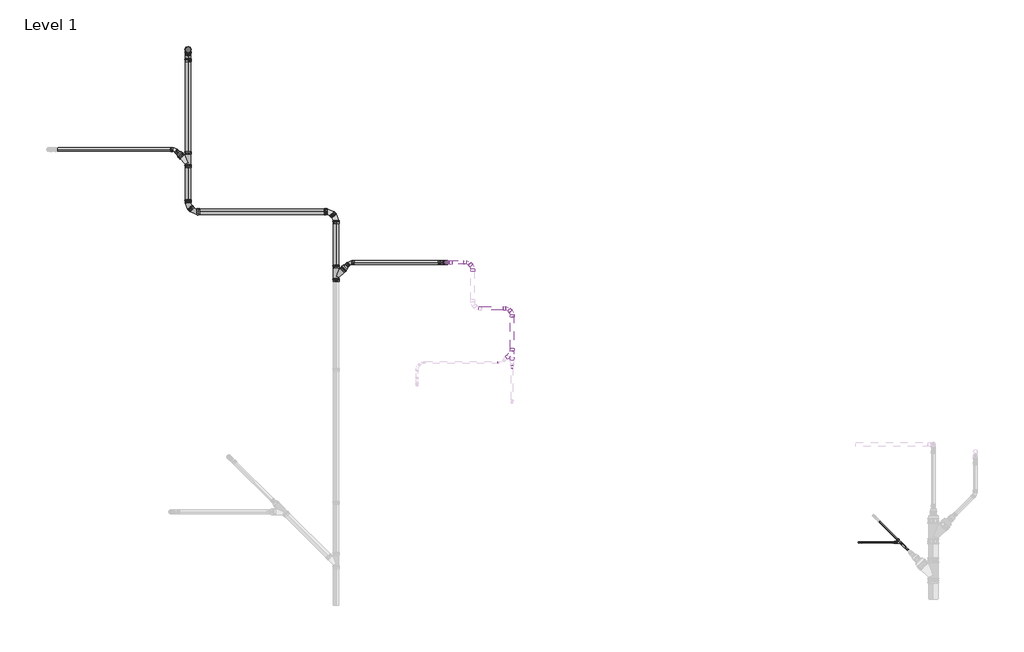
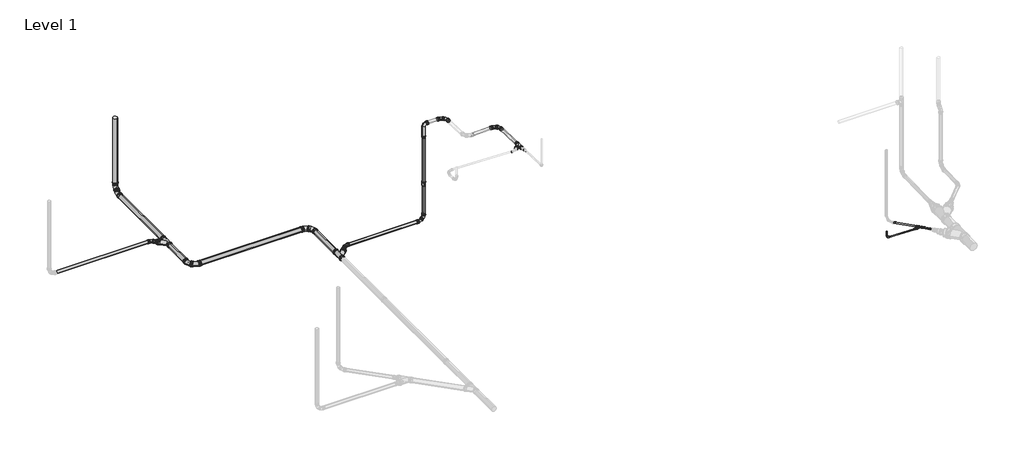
# One storey, part 2 of 7: 76 pipe fittings, 16 pipe segments.
"""IFC4 building model written with IfcOpenShell, lengths in millimetres."""

from ifc_helpers import new_model, si_unit, point, frame, frame_2d, origin, place, context, project, spatial, circle_curve, trimmed, segment, composite_curve, outline, extrude, transform, mapped, element, save
from components import std_7d5d7c72, std_65e16e6f, std_512bb775, std_630098ac, std_23606c27, std_dee5be90, std_f0847e49, std_f9de8ce1, std_0ddcd905, std_8a2dcd32, std_7f522812, std_nested_5daa23bf, std_nested_51db5023, std_nested_5b5722a1, std_nested_4232c6ad, std_nested_3508894c, std_nested_f4b71964, std_nested_afca93a4, std_nested_0d9e00e9, std_nested_fe48a173, std_nested_0864587b, std_nested_abb7c94b, std_nested_8823e034, std_nested_0554dc6d, std_nested_e6348f04, std_nested_87475930, std_nested_d12045ae, std_nested_01edd257, std_nested_ec2a7507, std_nested_473bf3f7, std_nested_83654513, std_nested_352c3d66, std_nested_72f87268

model = new_model("IFC4")

# Units and contexts
model_context = context("Model", 3, world=origin())
ifc_project = project(units=[si_unit("LENGTHUNIT", "METRE", prefix="MILLI")], contexts=[model_context])

# Site, building, storey
site = spatial("IfcSite", under=ifc_project)
building = spatial("IfcBuilding", under=site)
storey = spatial("IfcBuildingStorey", under=building, Name="Level 1", Elevation=0.0)

# Pipe fittings
placement = place(None, origin())
std_shape = std_7d5d7c72(model_context)
element("IfcPipeFitting", 1, ObjectType="PIF_ST_UN_GM-X optimiserbend 1a push socket_ACO : std", at=placement, inside=storey, context=model_context, shape_type="MappedRepresentation", body=[
    mapped(std_shape, transform((-21120.1090497, 8557.3978998, 3599.9177168), x_axis=(-1.0, 0.0, 0.0), y_axis=(0.0, 0.0, -1.0), z_axis=(0.0, -1.0, 0.0))),
])
std_2_shape = std_65e16e6f(model_context)
element("IfcPipeFitting", 2, ObjectType="PIF_ST_UN_GM-X multibranch_ACO : std", at=placement, inside=storey, context=model_context, shape_type="MappedRepresentation", body=[
    mapped(std_2_shape, transform((-8252.8917336, 607.449965, 82.5747072), x_axis=(-0.7070272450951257, 0.7070272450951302, 0.014998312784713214), y_axis=(-0.7070272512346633, -0.707159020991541, 0.006211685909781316), z_axis=(0.01499802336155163, -0.006212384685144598, 0.9998682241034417))),
])
std_3_shape = std_512bb775(model_context)
element("IfcPipeFitting", 3, ObjectType="PIF_ST_UN_GM-X multibranch_ACO : std", at=placement, inside=storey, context=model_context, shape_type="MappedRepresentation", body=[
    mapped(std_3_shape, transform((-28468.2867366, 11388.8917044, 15.5), x_axis=(0.0, 1.0, 0.0), y_axis=(-1.0, 0.0, 0.0), z_axis=(0.0, 0.0, 1.0))),
])
element("IfcPipeFitting", 4, ObjectType="PIF_ST_UN_GM-X multibranch_ACO : std", at=placement, inside=storey, context=model_context, shape_type="MappedRepresentation", body=[
    mapped(std_3_shape, transform((-24268.2867366, 8162.8323159, 15.5), x_axis=(0.0, 1.0, 0.0), y_axis=(1.0, 0.0, 0.0), z_axis=(0.0, 0.0, -1.0))),
])
std_4_shape = std_630098ac(model_context)
element("IfcPipeFitting", 5, ObjectType="PIF_ST_UN_GM-X multibranch_ACO : std", at=placement, inside=storey, context=model_context, shape_type="MappedRepresentation", body=[
    mapped(std_4_shape, transform((-19271.0829887, 6007.4583847, 3728.4040372), x_axis=(0.0, -0.9993880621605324, 0.03497858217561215), y_axis=(-0.9993888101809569, 0.0012227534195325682, 0.03493581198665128), z_axis=(-0.034957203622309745, -0.03495720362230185, -0.9987772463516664))),
])
std_5_shape = std_23606c27(model_context)
element("IfcPipeFitting", 6, ObjectType="PIF_ST_UN_GM-X double bend_ACO : std", at=placement, inside=storey, context=model_context, shape_type="MappedRepresentation", body=[
    mapped(std_5_shape, transform((-28468.2867366, 10000.6257944, 15.5), x_axis=(0.0, -1.0, 0.0), y_axis=(1.0, 0.0, 0.0), z_axis=(0.0, 0.0, 1.0))),
])
element("IfcPipeFitting", 7, ObjectType="PIF_ST_UN_GM-X double bend_ACO : std", at=placement, inside=storey, context=model_context, shape_type="MappedRepresentation", body=[
    mapped(std_5_shape, transform((-28468.2867366, 14600.6257944, 15.5), x_axis=(0.0, 0.0, -1.0), y_axis=(0.0, -1.0, 0.0), z_axis=(-1.0, 0.0, 0.0))),
])
std_6_shape = std_dee5be90(model_context)
element("IfcPipeFitting", 8, ObjectType="PIF_ST_UN_GM-X double bend_ACO : std", at=placement, inside=storey, context=model_context, shape_type="MappedRepresentation", body=[
    mapped(std_6_shape, transform((-24268.2867366, 10000.6257944, 15.5), x_axis=(0.0, 1.0, 0.0), y_axis=(-1.0, 0.0, 0.0), z_axis=(0.0, 0.0, 1.0))),
])
std_7_shape = std_f0847e49(model_context)
element("IfcPipeFitting", 9, ObjectType="PIF_ST_UN_GM-X double bend_ACO : std", at=placement, inside=storey, context=model_context, shape_type="MappedRepresentation", body=[
    mapped(std_7_shape, transform((-21120.1090497, 8557.3978998, 44.0), x_axis=(1.0, 0.0, 0.0), y_axis=(0.0, 0.0, 1.0), z_axis=(0.0, -1.0, 0.0))),
])
std_8_shape = std_f9de8ce1(model_context)
element("IfcPipeFitting", 10, ObjectType="PIF_ST_UN_GM-X double bend_ACO : std", at=placement, inside=storey, context=model_context, shape_type="MappedRepresentation", body=[
    mapped(std_8_shape, transform((-19271.0829887, 7253.2374554, 3684.8017697), x_axis=(0.0, 0.9993880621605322, -0.03497858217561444), y_axis=(-0.999388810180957, -0.0012227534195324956, -0.034935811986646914), z_axis=(-0.03495720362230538, 0.034957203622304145, 0.9987772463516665))),
])
std_9_shape = std_0ddcd905(model_context)
element("IfcPipeFitting", 11, ObjectType="PIF_ST_UN_GM-X double bend_ACO : std", at=placement, inside=storey, context=model_context, shape_type="MappedRepresentation", body=[
    mapped(std_9_shape, transform((-20392.1811992, 8557.3978998, 3599.9177168), x_axis=(0.0, 0.9993880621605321, -0.034978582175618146), y_axis=(-1.0, 0.0, 0.0), z_axis=(0.0, 0.034978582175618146, 0.9993880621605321))),
])
std_10_shape = std_8a2dcd32(model_context)
element("IfcPipeFitting", 12, ObjectType="PIF_ST_UN_GM-X pipe end_ACO : std", at=placement, inside=storey, context=model_context, shape_type="MappedRepresentation", body=[
    mapped(std_10_shape, transform((-21120.1090497, 8557.3978998, 1317.8889473), x_axis=(0.0, 0.0, -1.0), y_axis=(0.0, -1.0, 0.0), z_axis=(-1.0, 0.0, 0.0))),
])
std_11_shape = std_7f522812(model_context)
element("IfcPipeFitting", 13, ObjectType="PIF_ST_UN_GM-X pipe bend_ACO : std", at=placement, inside=storey, context=model_context, shape_type="MappedRepresentation", body=[
    mapped(std_11_shape, transform((-9433.0501981, 607.449965, 100.2449294), x_axis=(-0.9998880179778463, 0.0, 0.014965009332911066), y_axis=(0.014965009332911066, 0.0, 0.9998880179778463), z_axis=(0.0, 1.0, 0.0))),
])
std_nested_shape = std_nested_5daa23bf(model_context)
element("IfcPipeFitting", 14, ObjectType="ZZZ_do not use_PIF_ST_UN_GM-X seal non transitional_ACO : std (nested)", at=placement, inside=storey, context=model_context, shape_type="MappedRepresentation", body=[
    mapped(std_nested_shape, transform((-19270.0353213, 5548.7875435, 3774.4275391), x_axis=(0.0, -0.9993880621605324, 0.03497858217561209), y_axis=(0.9993888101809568, -0.001222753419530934, -0.03493581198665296), z_axis=(0.03495720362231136, 0.034957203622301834, 0.9987772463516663))),
])
std_nested_2_shape = std_nested_51db5023(model_context)
element("IfcPipeFitting", 15, ObjectType="ZZZ_do not use_PIF_ST_UN_GM-X single branch_ACO : std (nested)", at=placement, inside=storey, context=model_context, shape_type="MappedRepresentation", body=[
    mapped(std_nested_2_shape, transform((-8252.8917336, 607.449965, 82.5747072), x_axis=(-0.7070272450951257, 0.7070272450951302, 0.014998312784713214), y_axis=(-0.7070272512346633, -0.707159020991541, 0.006211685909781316), z_axis=(0.01499802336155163, -0.006212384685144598, 0.9998682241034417))),
])
std_nested_3_shape = std_nested_5b5722a1(model_context)
element("IfcPipeFitting", 16, ObjectType="ZZZ_do not use_PIF_ST_UN_GM-X single branch_ACO : std (nested)", at=placement, inside=storey, context=model_context, shape_type="MappedRepresentation", body=[
    mapped(std_nested_3_shape, transform((-28468.2867366, 11388.8917044, 15.5), x_axis=(0.0, 1.0, 0.0), y_axis=(-1.0, 0.0, 0.0), z_axis=(0.0, 0.0, 1.0))),
])
element("IfcPipeFitting", 17, ObjectType="ZZZ_do not use_PIF_ST_UN_GM-X single branch_ACO : std (nested)", at=placement, inside=storey, context=model_context, shape_type="MappedRepresentation", body=[
    mapped(std_nested_3_shape, transform((-24268.2867366, 8162.8323159, 15.5), x_axis=(0.0, 1.0, 0.0), y_axis=(1.0, 0.0, 0.0), z_axis=(0.0, 0.0, -1.0))),
])
std_nested_4_shape = std_nested_4232c6ad(model_context)
element("IfcPipeFitting", 18, ObjectType="ZZZ_do not use_PIF_ST_UN_GM-X single branch_ACO : std (nested)", at=placement, inside=storey, context=model_context, shape_type="MappedRepresentation", body=[
    mapped(std_nested_4_shape, transform((-19271.0829887, 6007.4583847, 3728.4040372), x_axis=(0.0, -0.9993880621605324, 0.03497858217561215), y_axis=(-0.9993888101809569, 0.0012227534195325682, 0.03493581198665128), z_axis=(-0.034957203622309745, -0.03495720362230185, -0.9987772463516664))),
])
std_nested_5_shape = std_nested_3508894c(model_context)
element("IfcPipeFitting", 19, ObjectType="ZZZ_do not use_PIF_ST_UN_GM-X transition element_ACO : std (nested)", at=placement, inside=storey, context=model_context, shape_type="MappedRepresentation", body=[
    mapped(std_nested_5_shape, transform((-8405.3745802, 607.449965, 84.8619499), x_axis=(-0.9998875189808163, 0.0, 0.014998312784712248), y_axis=(-9.317528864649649e-05, -0.9999807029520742, -0.006211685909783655), z_axis=(0.014998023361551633, -0.0062123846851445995, 0.9998682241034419))),
])
std_nested_6_shape = std_nested_f4b71964(model_context)
element("IfcPipeFitting", 20, ObjectType="ZZZ_do not use_PIF_ST_UN_GM-X transition element_ACO : std (nested)", at=placement, inside=storey, context=model_context, shape_type="MappedRepresentation", body=[
    mapped(std_nested_6_shape, transform((-28698.0964405, 11618.7014083, 15.5), x_axis=(-0.7071067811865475, 0.7071067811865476, 0.0), y_axis=(-0.7071067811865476, -0.7071067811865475, 0.0), z_axis=(0.0, 0.0, 1.0))),
])
std_nested_7_shape = std_nested_afca93a4(model_context)
element("IfcPipeFitting", 21, ObjectType="ZZZ_do not use_PIF_ST_UN_GM-X transition element_ACO : std (nested)", at=placement, inside=storey, context=model_context, shape_type="MappedRepresentation", body=[
    mapped(std_nested_7_shape, transform((-24029.9917513, 8401.1273012, 15.5), x_axis=(0.7071067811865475, 0.7071067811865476, 0.0), y_axis=(0.7071067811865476, -0.7071067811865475, 0.0), z_axis=(0.0, 0.0, -1.0))),
])
std_nested_8_shape = std_nested_0d9e00e9(model_context)
element("IfcPipeFitting", 22, ObjectType="ZZZ_do not use_PIF_ST_UN_GM-X pipe bend_ACO : std (nested)", at=placement, inside=storey, context=model_context, shape_type="MappedRepresentation", body=[
    mapped(std_nested_8_shape, transform((-28845.8817577, 11766.4867256, 15.5), x_axis=(-0.707106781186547, 0.707106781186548, 0.0), y_axis=(-0.707106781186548, -0.707106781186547, 0.0), z_axis=(0.0, 0.0, 1.0))),
])
element("IfcPipeFitting", 23, ObjectType="ZZZ_do not use_PIF_ST_UN_GM-X pipe bend_ACO : std (nested)", at=placement, inside=storey, context=model_context, shape_type="MappedRepresentation", body=[
    mapped(std_nested_8_shape, transform((-20518.0462062, 8557.3978998, 3599.9177168), x_axis=(-0.707106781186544, 0.7066740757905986, -0.024733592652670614), y_axis=(-0.707106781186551, -0.7066740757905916, 0.024733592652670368), z_axis=(0.0, 0.034978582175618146, 0.9993880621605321))),
])
element("IfcPipeFitting", 24, ObjectType="ZZZ_do not use_PIF_ST_UN_GM-X pipe bend_ACO : std (nested)", at=placement, inside=storey, context=model_context, shape_type="MappedRepresentation", body=[
    mapped(std_nested_8_shape, transform((-23873.7211527, 8557.3978998, 44.0), x_axis=(0.7071067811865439, 0.7071067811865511, 0.0), y_axis=(0.7071067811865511, -0.7071067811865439, 0.0), z_axis=(0.0, 0.0, -1.0))),
])
std_nested_9_shape = std_nested_fe48a173(model_context)
element("IfcPipeFitting", 25, ObjectType="ZZZ_do not use_PIF_ST_UN_GM-X pipe bend_ACO : std (nested)", at=placement, inside=storey, context=model_context, shape_type="MappedRepresentation", body=[
    mapped(std_nested_9_shape, transform((-28468.2867366, 10173.8669558, 15.5), x_axis=(0.0, -1.0, 0.0), y_axis=(1.0, 0.0, 0.0), z_axis=(0.0, 0.0, 1.0))),
])
element("IfcPipeFitting", 26, ObjectType="ZZZ_do not use_PIF_ST_UN_GM-X pipe bend_ACO : std (nested)", at=placement, inside=storey, context=model_context, shape_type="MappedRepresentation", body=[
    mapped(std_nested_9_shape, transform((-28468.2867366, 14600.6257944, 188.7411614), x_axis=(0.0, 0.0, -1.0), y_axis=(0.0, -1.0, 0.0), z_axis=(-1.0, 0.0, 0.0))),
])
std_nested_10_shape = std_nested_0864587b(model_context)
element("IfcPipeFitting", 27, ObjectType="ZZZ_do not use_PIF_ST_UN_GM-X pipe bend_ACO : std (nested)", at=placement, inside=storey, context=model_context, shape_type="MappedRepresentation", body=[
    mapped(std_nested_10_shape, transform((-28295.0455752, 10000.6257944, 15.5), x_axis=(0.7071067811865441, -0.707106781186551, 0.0), y_axis=(0.707106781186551, 0.7071067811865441, 0.0), z_axis=(0.0, 0.0, 1.0))),
])
element("IfcPipeFitting", 28, ObjectType="ZZZ_do not use_PIF_ST_UN_GM-X pipe bend_ACO : std (nested)", at=placement, inside=storey, context=model_context, shape_type="MappedRepresentation", body=[
    mapped(std_nested_10_shape, transform((-28468.2867366, 14427.384633, 15.5), x_axis=(0.0, -0.7071067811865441, -0.707106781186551), y_axis=(0.0, -0.707106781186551, 0.7071067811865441), z_axis=(-1.0, 0.0, 0.0))),
])
std_nested_11_shape = std_nested_abb7c94b(model_context)
element("IfcPipeFitting", 29, ObjectType="ZZZ_do not use_PIF_ST_UN_GM-X pipe bend_ACO : std (nested)", at=placement, inside=storey, context=model_context, shape_type="MappedRepresentation", body=[
    mapped(std_nested_11_shape, transform((-24268.2867366, 9827.384633, 15.5), x_axis=(0.0, 1.0, 0.0), y_axis=(-1.0, 0.0, 0.0), z_axis=(0.0, 0.0, 1.0))),
])
std_nested_12_shape = std_nested_8823e034(model_context)
element("IfcPipeFitting", 30, ObjectType="ZZZ_do not use_PIF_ST_UN_GM-X pipe bend_ACO : std (nested)", at=placement, inside=storey, context=model_context, shape_type="MappedRepresentation", body=[
    mapped(std_nested_12_shape, transform((-24441.527898, 10000.6257944, 15.5), x_axis=(-0.7071067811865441, 0.707106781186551, 0.0), y_axis=(-0.707106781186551, -0.7071067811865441, 0.0), z_axis=(0.0, 0.0, 1.0))),
])
std_nested_13_shape = std_nested_0554dc6d(model_context)
element("IfcPipeFitting", 31, ObjectType="ZZZ_do not use_PIF_ST_UN_GM-X pipe bend_ACO : std (nested)", at=placement, inside=storey, context=model_context, shape_type="MappedRepresentation", body=[
    mapped(std_nested_13_shape, transform((-21245.9740567, 8557.3978998, 44.0), x_axis=(1.0, 0.0, 0.0), y_axis=(0.0, 0.0, 1.0), z_axis=(0.0, -1.0, 0.0))),
])
std_nested_14_shape = std_nested_e6348f04(model_context)
element("IfcPipeFitting", 32, ObjectType="ZZZ_do not use_PIF_ST_UN_GM-X pipe bend_ACO : std (nested)", at=placement, inside=storey, context=model_context, shape_type="MappedRepresentation", body=[
    mapped(std_nested_14_shape, transform((-21120.1090497, 8557.3978998, 169.8650071), x_axis=(0.707106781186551, 0.0, 0.707106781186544), y_axis=(-0.707106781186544, 0.0, 0.707106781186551), z_axis=(0.0, -1.0, 0.0))),
])
std_nested_15_shape = std_nested_87475930(model_context)
element("IfcPipeFitting", 33, ObjectType="ZZZ_do not use_PIF_ST_UN_GM-X pipe bend_ACO : std (nested)", at=placement, inside=storey, context=model_context, shape_type="MappedRepresentation", body=[
    mapped(std_nested_15_shape, transform((-19271.0829887, 7127.5263503, 3689.2016584), x_axis=(0.0, 0.9993880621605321, -0.03497858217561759), y_axis=(-0.999388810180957, -0.0012227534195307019, -0.03493581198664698), z_axis=(-0.03495720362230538, 0.03495720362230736, 0.9987772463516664))),
])
std_nested_16_shape = std_nested_d12045ae(model_context)
element("IfcPipeFitting", 34, ObjectType="ZZZ_do not use_PIF_ST_UN_GM-X pipe bend_ACO : std (nested)", at=placement, inside=storey, context=model_context, shape_type="MappedRepresentation", body=[
    mapped(std_nested_16_shape, transform((-19396.7940938, 7253.2374554, 3680.401881), x_axis=(-0.7062421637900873, 0.7062421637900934, -0.049436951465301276), y_axis=(-0.7071067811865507, -0.7071067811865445, 0.0), z_axis=(-0.03495720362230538, 0.034957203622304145, 0.9987772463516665))),
])
std_nested_17_shape = std_nested_01edd257(model_context)
element("IfcPipeFitting", 35, ObjectType="ZZZ_do not use_PIF_ST_UN_GM-X pipe bend_ACO : std (nested)", at=placement, inside=storey, context=model_context, shape_type="MappedRepresentation", body=[
    mapped(std_nested_17_shape, transform((-20392.1811992, 8431.6099143, 3604.3202963), x_axis=(0.0, 0.999388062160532, -0.03497858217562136), y_axis=(-1.0, 0.0, 0.0), z_axis=(0.0, 0.03497858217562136, 0.999388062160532))),
])
std_nested_18_shape = std_nested_ec2a7507(model_context)
element("IfcPipeFitting", 36, ObjectType="ZZZ_do not use_PIF_ST_UN_GM-X seal non transitional_ACO : std (nested)", at=placement, inside=storey, context=model_context, shape_type="MappedRepresentation", body=[
    mapped(std_nested_18_shape, transform((-8493.8646257, 607.449965, 86.1893006), x_axis=(-0.9998875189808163, 0.0, 0.014998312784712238), y_axis=(-9.317528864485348e-05, -0.9999807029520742, -0.006211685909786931), z_axis=(0.014998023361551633, -0.006212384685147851, 0.9998682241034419))),
])
element("IfcPipeFitting", 37, ObjectType="ZZZ_do not use_PIF_ST_UN_GM-X seal non transitional_ACO : std (nested)", at=placement, inside=storey, context=model_context, shape_type="MappedRepresentation", body=[
    mapped(std_nested_18_shape, transform((-9433.0501981, 607.449965, 195.2449294), x_axis=(0.0, 0.0, 1.0), y_axis=(1.0, 0.0, 0.0), z_axis=(0.0, 1.0, 0.0))),
])
element("IfcPipeFitting", 38, ObjectType="ZZZ_do not use_PIF_ST_UN_GM-X seal non transitional_ACO : std (nested)", at=placement, inside=storey, context=model_context, shape_type="MappedRepresentation", body=[
    mapped(std_nested_18_shape, transform((-9359.0584848, 607.449965, 99.1375188), x_axis=(-0.9998880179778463, 0.0, 0.014965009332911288), y_axis=(0.014965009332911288, 0.0, 0.9998880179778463), z_axis=(0.0, 1.0, 0.0))),
])
std_nested_19_shape = std_nested_473bf3f7(model_context)
element("IfcPipeFitting", 39, ObjectType="ZZZ_do not use_PIF_ST_UN_GM-X seal non transitional_ACO : std (nested)", at=placement, inside=storey, context=model_context, shape_type="MappedRepresentation", body=[
    mapped(std_nested_19_shape, transform((-19271.0829887, 7003.6022306, 3693.5390026), x_axis=(0.0, -0.9993880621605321, 0.03497858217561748), y_axis=(0.999388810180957, 0.0012227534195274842, 0.03493581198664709), z_axis=(-0.03495720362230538, 0.03495720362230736, 0.9987772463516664))),
])
element("IfcPipeFitting", 40, ObjectType="ZZZ_do not use_PIF_ST_UN_GM-X seal non transitional_ACO : std (nested)", at=placement, inside=storey, context=model_context, shape_type="MappedRepresentation", body=[
    mapped(std_nested_19_shape, transform((-19309.2200655, 7165.6634271, 3686.532063), x_axis=(0.706242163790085, -0.7062421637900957, 0.049436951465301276), y_axis=(0.7071067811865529, 0.7071067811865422, 0.0), z_axis=(-0.03495720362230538, 0.034957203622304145, 0.9987772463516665))),
])
element("IfcPipeFitting", 41, ObjectType="ZZZ_do not use_PIF_ST_UN_GM-X seal non transitional_ACO : std (nested)", at=placement, inside=storey, context=model_context, shape_type="MappedRepresentation", body=[
    mapped(std_nested_19_shape, transform((-21369.9740567, 8557.3978998, 44.0), x_axis=(-1.0, 0.0, 0.0), y_axis=(0.0, 0.0, -1.0), z_axis=(0.0, -1.0, 0.0))),
])
element("IfcPipeFitting", 42, ObjectType="ZZZ_do not use_PIF_ST_UN_GM-X seal non transitional_ACO : std (nested)", at=placement, inside=storey, context=model_context, shape_type="MappedRepresentation", body=[
    mapped(std_nested_19_shape, transform((-21207.7902905, 8557.3978998, 82.1837662), x_axis=(-0.7071067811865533, 0.0, -0.7071067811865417), y_axis=(0.7071067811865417, 0.0, -0.7071067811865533), z_axis=(0.0, -1.0, 0.0))),
])
element("IfcPipeFitting", 43, ObjectType="ZZZ_do not use_PIF_ST_UN_GM-X seal non transitional_ACO : std (nested)", at=placement, inside=storey, context=model_context, shape_type="MappedRepresentation", body=[
    mapped(std_nested_19_shape, transform((-28807.6979915, 11728.3029594, 15.5), x_axis=(-0.7071067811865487, 0.7071067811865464, 0.0), y_axis=(-0.7071067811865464, -0.7071067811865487, 0.0), z_axis=(0.0, 0.0, 1.0))),
])
element("IfcPipeFitting", 44, ObjectType="ZZZ_do not use_PIF_ST_UN_GM-X seal non transitional_ACO : std (nested)", at=placement, inside=storey, context=model_context, shape_type="MappedRepresentation", body=[
    mapped(std_nested_19_shape, transform((-23911.9049189, 8519.2141336, 44.0), x_axis=(0.7071067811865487, 0.7071067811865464, 0.0), y_axis=(0.7071067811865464, -0.7071067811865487, 0.0), z_axis=(0.0, 0.0, -1.0))),
])
element("IfcPipeFitting", 45, ObjectType="ZZZ_do not use_PIF_ST_UN_GM-X seal non transitional_ACO : std (nested)", at=placement, inside=storey, context=model_context, shape_type="MappedRepresentation", body=[
    mapped(std_nested_19_shape, transform((-20970.1090497, 8557.3978998, 3599.9177168), x_axis=(1.0, 0.0, 0.0), y_axis=(0.0, 0.0, 1.0), z_axis=(0.0, -1.0, 0.0))),
])
element("IfcPipeFitting", 46, ObjectType="ZZZ_do not use_PIF_ST_UN_GM-X seal non transitional_ACO : std (nested)", at=placement, inside=storey, context=model_context, shape_type="MappedRepresentation", body=[
    mapped(std_nested_19_shape, transform((-21120.1090497, 8557.3978998, 3169.9177168), x_axis=(0.0, 0.0, 1.0), y_axis=(-1.0, 0.0, 0.0), z_axis=(0.0, -1.0, 0.0))),
])
element("IfcPipeFitting", 47, ObjectType="ZZZ_do not use_PIF_ST_UN_GM-X seal non transitional_ACO : std (nested)", at=placement, inside=storey, context=model_context, shape_type="MappedRepresentation", body=[
    mapped(std_nested_19_shape, transform((-21120.1090497, 8557.3978998, 1467.8889473), x_axis=(0.0, 0.0, 1.0), y_axis=(0.0, 1.0, 0.0), z_axis=(-1.0, 0.0, 0.0))),
])
element("IfcPipeFitting", 48, ObjectType="ZZZ_do not use_PIF_ST_UN_GM-X seal non transitional_ACO : std (nested)", at=placement, inside=storey, context=model_context, shape_type="MappedRepresentation", body=[
    mapped(std_nested_19_shape, transform((-28969.8817577, 11766.4867256, 15.5), x_axis=(-1.0, 0.0, 0.0), y_axis=(0.0, -1.0, 0.0), z_axis=(0.0, 0.0, 1.0))),
])
element("IfcPipeFitting", 49, ObjectType="ZZZ_do not use_PIF_ST_UN_GM-X seal non transitional_ACO : std (nested)", at=placement, inside=storey, context=model_context, shape_type="MappedRepresentation", body=[
    mapped(std_nested_19_shape, transform((-23749.7211527, 8557.3978998, 44.0), x_axis=(1.0000000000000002, 0.0, 0.0), y_axis=(0.0, -1.0000000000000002, 0.0), z_axis=(0.0, 0.0, -1.0))),
])
element("IfcPipeFitting", 50, ObjectType="ZZZ_do not use_PIF_ST_UN_GM-X seal non transitional_ACO : std (nested)", at=placement, inside=storey, context=model_context, shape_type="MappedRepresentation", body=[
    mapped(std_nested_19_shape, transform((-19450.7610492, 7253.2374554, 3678.5130376), x_axis=(0.9993880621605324, 0.0, 0.03497858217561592), y_axis=(0.001222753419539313, 0.9993888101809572, -0.034935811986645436), z_axis=(-0.03495720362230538, 0.034957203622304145, 0.9987772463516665))),
])
element("IfcPipeFitting", 51, ObjectType="ZZZ_do not use_PIF_ST_UN_GM-X seal non transitional_ACO : std (nested)", at=placement, inside=storey, context=model_context, shape_type="MappedRepresentation", body=[
    mapped(std_nested_19_shape, transform((-19271.0829887, 6047.4339071, 3727.0048939), x_axis=(0.0, -0.9993880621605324, 0.03497858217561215), y_axis=(0.9993888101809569, -0.0012227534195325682, -0.03493581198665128), z_axis=(0.034957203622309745, 0.03495720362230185, 0.9987772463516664))),
])
element("IfcPipeFitting", 52, ObjectType="ZZZ_do not use_PIF_ST_UN_GM-X seal non transitional_ACO : std (nested)", at=placement, inside=storey, context=model_context, shape_type="MappedRepresentation", body=[
    mapped(std_nested_19_shape, transform((-20479.86244, 8519.2374997, 3601.2533308), x_axis=(-0.7071067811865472, 0.7066740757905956, -0.024733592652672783), y_axis=(-0.707106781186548, -0.7066740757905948, 0.02473359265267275), z_axis=(0.0, 0.03497858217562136, 0.999388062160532))),
])
element("IfcPipeFitting", 53, ObjectType="ZZZ_do not use_PIF_ST_UN_GM-X seal non transitional_ACO : std (nested)", at=placement, inside=storey, context=model_context, shape_type="MappedRepresentation", body=[
    mapped(std_nested_19_shape, transform((-20392.1811992, 8377.642959, 3606.2091397), x_axis=(0.0, 0.999388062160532, -0.03497858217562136), y_axis=(-1.0, 0.0, 0.0), z_axis=(0.0, 0.03497858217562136, 0.999388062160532))),
])
element("IfcPipeFitting", 54, ObjectType="ZZZ_do not use_PIF_ST_UN_GM-X seal non transitional_ACO : std (nested)", at=placement, inside=storey, context=model_context, shape_type="MappedRepresentation", body=[
    mapped(std_nested_19_shape, transform((-20642.0462062, 8557.3978998, 3599.9177168), x_axis=(-1.0, 0.0, 0.0), y_axis=(0.0, -0.9993880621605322, 0.03497858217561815), z_axis=(0.0, 0.034978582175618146, 0.9993880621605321))),
])
element("IfcPipeFitting", 55, ObjectType="ZZZ_do not use_PIF_ST_UN_GM-X seal non transitional_ACO : std (nested)", at=placement, inside=storey, context=model_context, shape_type="MappedRepresentation", body=[
    mapped(std_nested_19_shape, transform((-21120.1090497, 8557.3978998, 223.8650071), x_axis=(0.0, 0.0, -1.0), y_axis=(1.0, 0.0, 0.0), z_axis=(0.0, -1.0, 0.0))),
])
std_nested_20_shape = std_nested_83654513(model_context)
element("IfcPipeFitting", 56, ObjectType="ZZZ_do not use_PIF_ST_UN_GM-X seal non transitional_ACO : std (nested)", at=placement, inside=storey, context=model_context, shape_type="MappedRepresentation", body=[
    mapped(std_nested_20_shape, transform((-19270.5771579, 5638.1906324, 3755.7984194), x_axis=(0.0, -0.9993880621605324, 0.03497858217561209), y_axis=(0.9993888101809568, -0.001222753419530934, -0.03493581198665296), z_axis=(0.03495720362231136, 0.034957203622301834, 0.9987772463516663))),
])
std_nested_21_shape = std_nested_352c3d66(model_context)
element("IfcPipeFitting", 57, ObjectType="ZZZ_do not use_PIF_ST_UN_GM-X seal non transitional_ACO : std (nested)", at=placement, inside=storey, context=model_context, shape_type="MappedRepresentation", body=[
    mapped(std_nested_21_shape, transform((-8041.1933257, 395.7515571, 78.0839058), x_axis=(-0.7070272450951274, 0.7070272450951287, 0.014998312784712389), y_axis=(-0.7071590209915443, -0.7070272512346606, -0.006211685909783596), z_axis=(0.0062123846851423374, -0.014998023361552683, 0.9998682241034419))),
])
element("IfcPipeFitting", 58, ObjectType="ZZZ_do not use_PIF_ST_UN_GM-X seal non transitional_ACO : std (nested)", at=placement, inside=storey, context=model_context, shape_type="MappedRepresentation", body=[
    mapped(std_nested_21_shape, transform((-8380.877336, 607.449965, 84.4944913), x_axis=(-0.9998875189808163, 0.0, 0.014998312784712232), y_axis=(-9.317528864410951e-05, -0.9999807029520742, -0.006211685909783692), z_axis=(0.014998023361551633, -0.0062123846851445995, 0.9998682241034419))),
])
element("IfcPipeFitting", 59, ObjectType="ZZZ_do not use_PIF_ST_UN_GM-X seal non transitional_ACO : std (nested)", at=placement, inside=storey, context=model_context, shape_type="MappedRepresentation", body=[
    mapped(std_nested_21_shape, transform((-8339.8560847, 694.4143162, 84.4194997), x_axis=(-0.7070272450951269, 0.7070272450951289, 0.014998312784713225), y_axis=(-0.707027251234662, -0.7071590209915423, 0.006211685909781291), z_axis=(0.01499802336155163, -0.006212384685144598, 0.9998682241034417))),
])
element("IfcPipeFitting", 60, ObjectType="ZZZ_do not use_PIF_ST_UN_GM-X seal non transitional_ACO : std (nested)", at=placement, inside=storey, context=model_context, shape_type="MappedRepresentation", body=[
    mapped(std_nested_21_shape, transform((-8233.801998, 588.3602294, 82.1697528), x_axis=(-0.7070272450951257, 0.7070272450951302, 0.014998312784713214), y_axis=(0.7070272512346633, 0.707159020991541, -0.006211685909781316), z_axis=(-0.01499802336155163, 0.006212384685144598, -0.9998682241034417))),
])
element("IfcPipeFitting", 61, ObjectType="ZZZ_do not use_PIF_ST_UN_GM-X seal non transitional_ACO : std (nested)", at=placement, inside=storey, context=model_context, shape_type="MappedRepresentation", body=[
    mapped(std_nested_21_shape, transform((-19677.9781011, 5714.5267882, 3777.0675254), x_axis=(-0.9993881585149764, 8.146694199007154e-05, 0.034975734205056), y_axis=(-0.0011412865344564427, 0.9993888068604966, -0.034938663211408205), z_axis=(-0.03495720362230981, -0.03495720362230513, -0.9987772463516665))),
])
std_nested_22_shape = std_nested_72f87268(model_context)
element("IfcPipeFitting", 62, ObjectType="ZZZ_do not use_PIF_ST_UN_GM-X seal non transitional_ACO : std (nested)", at=placement, inside=storey, context=model_context, shape_type="MappedRepresentation", body=[
    mapped(std_nested_22_shape, transform((-28468.2867366, 10336.8669558, 15.5), x_axis=(0.0, 1.0, 0.0), y_axis=(-1.0, 0.0, 0.0), z_axis=(0.0, 0.0, 1.0))),
])
element("IfcPipeFitting", 63, ObjectType="ZZZ_do not use_PIF_ST_UN_GM-X seal non transitional_ACO : std (nested)", at=placement, inside=storey, context=model_context, shape_type="MappedRepresentation", body=[
    mapped(std_nested_22_shape, transform((-28410.3039805, 10115.8841997, 15.5), x_axis=(-0.7071067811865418, 0.7071067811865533, 0.0), y_axis=(-0.7071067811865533, -0.7071067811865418, 0.0), z_axis=(0.0, 0.0, 1.0))),
])
element("IfcPipeFitting", 64, ObjectType="ZZZ_do not use_PIF_ST_UN_GM-X seal non transitional_ACO : std (nested)", at=placement, inside=storey, context=model_context, shape_type="MappedRepresentation", body=[
    mapped(std_nested_22_shape, transform((-28468.2867366, 14600.6257944, 351.7411614), x_axis=(0.0, 0.0, 1.0), y_axis=(0.0, 1.0, 0.0), z_axis=(-1.0, 0.0, 0.0))),
])
element("IfcPipeFitting", 65, ObjectType="ZZZ_do not use_PIF_ST_UN_GM-X seal non transitional_ACO : std (nested)", at=placement, inside=storey, context=model_context, shape_type="MappedRepresentation", body=[
    mapped(std_nested_22_shape, transform((-28468.2867366, 14542.6430383, 130.7584053), x_axis=(0.0, 0.7071067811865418, 0.7071067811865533), y_axis=(0.0, 0.7071067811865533, -0.7071067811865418), z_axis=(-1.0, 0.0, 0.0))),
])
element("IfcPipeFitting", 66, ObjectType="ZZZ_do not use_PIF_ST_UN_GM-X seal non transitional_ACO : std (nested)", at=placement, inside=storey, context=model_context, shape_type="MappedRepresentation", body=[
    mapped(std_nested_22_shape, transform((-28694.5609066, 11615.1658744, 15.5), x_axis=(-0.7071067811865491, 0.7071067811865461, 0.0), y_axis=(-0.7071067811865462, -0.7071067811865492, 0.0), z_axis=(0.0, 0.0, 1.0000000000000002))),
])
element("IfcPipeFitting", 67, ObjectType="ZZZ_do not use_PIF_ST_UN_GM-X seal non transitional_ACO : std (nested)", at=placement, inside=storey, context=model_context, shape_type="MappedRepresentation", body=[
    mapped(std_nested_22_shape, transform((-28468.2867366, 11708.8917044, 15.5), x_axis=(0.0, 1.0, 0.0), y_axis=(-1.0, 0.0, 0.0), z_axis=(0.0, 0.0, 1.0))),
])
element("IfcPipeFitting", 68, ObjectType="ZZZ_do not use_PIF_ST_UN_GM-X seal non transitional_ACO : std (nested)", at=placement, inside=storey, context=model_context, shape_type="MappedRepresentation", body=[
    mapped(std_nested_22_shape, transform((-24042.0125666, 8389.1064859, 15.5), x_axis=(0.7071067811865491, 0.7071067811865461, 0.0), y_axis=(0.7071067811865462, -0.7071067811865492, 0.0), z_axis=(0.0, 0.0, -1.0000000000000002))),
])
element("IfcPipeFitting", 69, ObjectType="ZZZ_do not use_PIF_ST_UN_GM-X seal non transitional_ACO : std (nested)", at=placement, inside=storey, context=model_context, shape_type="MappedRepresentation", body=[
    mapped(std_nested_22_shape, transform((-24268.2867366, 8482.8323159, 15.5), x_axis=(0.0, 1.0, 0.0), y_axis=(1.0, 0.0, 0.0), z_axis=(0.0, 0.0, -1.0))),
])
element("IfcPipeFitting", 70, ObjectType="ZZZ_do not use_PIF_ST_UN_GM-X seal non transitional_ACO : std (nested)", at=placement, inside=storey, context=model_context, shape_type="MappedRepresentation", body=[
    mapped(std_nested_22_shape, transform((-28468.2867366, 11328.8917044, 15.5), x_axis=(0.0, 1.0, 0.0), y_axis=(1.0, 0.0, 0.0), z_axis=(0.0, 0.0, -1.0))),
])
element("IfcPipeFitting", 71, ObjectType="ZZZ_do not use_PIF_ST_UN_GM-X seal non transitional_ACO : std (nested)", at=placement, inside=storey, context=model_context, shape_type="MappedRepresentation", body=[
    mapped(std_nested_22_shape, transform((-24268.2867366, 8102.8323159, 15.5), x_axis=(0.0, 1.0, 0.0), y_axis=(-1.0, 0.0, 0.0), z_axis=(0.0, 0.0, 1.0))),
])
element("IfcPipeFitting", 72, ObjectType="ZZZ_do not use_PIF_ST_UN_GM-X seal non transitional_ACO : std (nested)", at=placement, inside=storey, context=model_context, shape_type="MappedRepresentation", body=[
    mapped(std_nested_22_shape, transform((-28213.0455752, 10000.6257944, 15.5), x_axis=(-1.0, 0.0, 0.0), y_axis=(0.0, -1.0, 0.0), z_axis=(0.0, 0.0, 1.0))),
])
element("IfcPipeFitting", 73, ObjectType="ZZZ_do not use_PIF_ST_UN_GM-X seal non transitional_ACO : std (nested)", at=placement, inside=storey, context=model_context, shape_type="MappedRepresentation", body=[
    mapped(std_nested_22_shape, transform((-24383.5451419, 9942.6430383, 15.5), x_axis=(-0.7071067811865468, 0.7071067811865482, 0.0), y_axis=(-0.7071067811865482, -0.7071067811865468, 0.0), z_axis=(0.0, 0.0, 1.0))),
])
element("IfcPipeFitting", 74, ObjectType="ZZZ_do not use_PIF_ST_UN_GM-X seal non transitional_ACO : std (nested)", at=placement, inside=storey, context=model_context, shape_type="MappedRepresentation", body=[
    mapped(std_nested_22_shape, transform((-24268.2867366, 9745.384633, 15.5), x_axis=(0.0, 1.0, 0.0), y_axis=(-1.0, 0.0, 0.0), z_axis=(0.0, 0.0, 1.0))),
])
element("IfcPipeFitting", 75, ObjectType="ZZZ_do not use_PIF_ST_UN_GM-X seal non transitional_ACO : std (nested)", at=placement, inside=storey, context=model_context, shape_type="MappedRepresentation", body=[
    mapped(std_nested_22_shape, transform((-24604.527898, 10000.6257944, 15.5), x_axis=(-1.0, 0.0, 0.0), y_axis=(0.0, -1.0, 0.0), z_axis=(0.0, 0.0, 1.0))),
])
element("IfcPipeFitting", 76, ObjectType="ZZZ_do not use_PIF_ST_UN_GM-X seal non transitional_ACO : std (nested)", at=placement, inside=storey, context=model_context, shape_type="MappedRepresentation", body=[
    mapped(std_nested_22_shape, transform((-28468.2867366, 14345.384633, 15.5), x_axis=(0.0, 1.0, 0.0), y_axis=(0.0, 0.0, -1.0), z_axis=(-1.0, 0.0, 0.0))),
])

# Pipe segments
element("IfcPipeSegment", 77, ObjectType="GM-X pipe complex", at=placement, inside=storey, context=model_context, shape_type="SweptSolid", body=[
    extrude(outline(composite_curve([segment(trimmed(circle_curve(frame_2d((0.0, -26.5)), 26.5), [point((-26.49702, -26.8974106))], [point((-0.3974106, -0.0029801))], False, "CARTESIAN"), True, "CONTINUOUS"), segment(trimmed(circle_curve(frame_2d((0.0, -26.5)), 26.5), [point((-0.3974106, -0.0029801))], [point((26.4970199, -26.1025894))], False, "CARTESIAN"), True, "CONTINUOUS"), segment(trimmed(circle_curve(frame_2d((0.0, -26.5)), 26.5), [point((26.4970199, -26.1025894))], [point((0.3974106, -52.99702))], False, "CARTESIAN"), True, "CONTINUOUS"), segment(trimmed(circle_curve(frame_2d((0.0, -26.5)), 26.5), [point((0.3974106, -52.99702))], [point((-26.49702, -26.8974106))], False, "CARTESIAN"), True, "CONTINUOUS")], self_intersect=False)), frame((-8014.3262904, 369.4465453, 51.0199304), z_axis=(-0.7070272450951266, 0.7070272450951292, 0.01499831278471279), x_axis=(0.7071863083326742, 0.7068682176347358, 0.01499493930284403)), (0.0, 0.0, 1.0), 272.4204387),
])
element("IfcPipeSegment", 78, ObjectType="GM-X pipe complex", at=placement, inside=storey, context=model_context, shape_type="SweptSolid", body=[
    extrude(outline(composite_curve([segment(trimmed(circle_curve(frame_2d((0.0, 16.0)), 16.0), [point((0.0, 32.0))], [point((16.0, 16.0))], False, "CARTESIAN"), True, "CONTINUOUS"), segment(trimmed(circle_curve(frame_2d((0.0, 16.0)), 16.0), [point((16.0, 16.0))], [point((0.0, 0.0))], False, "CARTESIAN"), True, "CONTINUOUS"), segment(trimmed(circle_curve(frame_2d((0.0, 16.0)), 16.0), [point((0.0, 0.0))], [point((-16.0, 16.0))], False, "CARTESIAN"), True, "CONTINUOUS"), segment(trimmed(circle_curve(frame_2d((0.0, 16.0)), 16.0), [point((-16.0, 16.0))], [point((0.0, 32.0))], False, "CARTESIAN"), True, "CONTINUOUS")], self_intersect=False)), frame((-8467.8675502, 591.449965, 85.7993445), z_axis=(-0.9998880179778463, 0.0, 0.01496500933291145), x_axis=(0.01496500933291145, 0.0, 0.9998880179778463)), (0.0, 0.0, 1.0), 865.2907432),
])
element("IfcPipeSegment", 79, ObjectType="GM-X pipe complex", at=placement, inside=storey, context=model_context, shape_type="SweptSolid", body=[
    extrude(outline(composite_curve([segment(trimmed(circle_curve(frame_2d((1e-07, -26.5)), 26.5), [point((-26.49702, -26.8974099))], [point((-0.3974099, -0.0029801))], False, "CARTESIAN"), True, "CONTINUOUS"), segment(trimmed(circle_curve(frame_2d((1e-07, -26.5)), 26.5), [point((-0.3974099, -0.0029801))], [point((26.49702, -26.1025901))], False, "CARTESIAN"), True, "CONTINUOUS"), segment(trimmed(circle_curve(frame_2d((1e-07, -26.5)), 26.5), [point((26.49702, -26.1025901))], [point((0.3974099, -52.99702))], False, "CARTESIAN"), True, "CONTINUOUS"), segment(trimmed(circle_curve(frame_2d((1e-07, -26.5)), 26.5), [point((0.3974099, -52.99702))], [point((-26.49702, -26.8974099))], False, "CARTESIAN"), True, "CONTINUOUS")], self_intersect=False)), frame((-8312.9890494, 668.1093039, 57.3555243), z_axis=(-0.7070264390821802, 0.7070280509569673, 0.014998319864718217), x_axis=(0.7071871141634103, 0.7068674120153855, 0.014994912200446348)), (0.0, 0.0, 1.0), 761.3040045),
])
element("IfcPipeSegment", 80, ObjectType="GM-X pipe complex", at=placement, inside=storey, context=model_context, shape_type="SweptSolid", body=[
    extrude(outline(composite_curve([segment(trimmed(circle_curve(frame_2d((0.0, 16.0)), 16.0), [point((-16.0, 16.0000003))], [point((3e-07, 32.0))], False, "CARTESIAN"), True, "CONTINUOUS"), segment(trimmed(circle_curve(frame_2d((0.0, 16.0)), 16.0), [point((3e-07, 32.0))], [point((16.0, 15.9999997))], False, "CARTESIAN"), True, "CONTINUOUS"), segment(trimmed(circle_curve(frame_2d((0.0, 16.0)), 16.0), [point((16.0, 15.9999997))], [point((-3e-07, 0.0))], False, "CARTESIAN"), True, "CONTINUOUS"), segment(trimmed(circle_curve(frame_2d((0.0, 16.0)), 16.0), [point((-3e-07, 0.0))], [point((-16.0, 16.0000003))], False, "CARTESIAN"), True, "CONTINUOUS")], self_intersect=False)), frame((-9433.0501981, 591.4499652, 169.2473986), z_axis=(-0.00010885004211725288, 0.00015432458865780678, 0.9999999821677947), x_axis=(0.9999999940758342, 1.6798238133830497e-08, 0.00010885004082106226)), (0.0, 0.0, 1.0), 170.7550736),
])
element("IfcPipeSegment", 81, ObjectType="GM-X pipe complex", at=placement, inside=storey, context=model_context, shape_type="SweptSolid", body=[
    extrude(outline(composite_curve([segment(trimmed(circle_curve(frame_2d((15.5, -28468.2867366)), 79.5), [point((15.5, -28547.7867366))], [point((-64.0, -28468.2867366))], False, "CARTESIAN"), True, "CONTINUOUS"), segment(trimmed(circle_curve(frame_2d((15.5, -28468.2867366)), 79.5), [point((-64.0, -28468.2867366))], [point((15.5, -28388.7867366))], False, "CARTESIAN"), True, "CONTINUOUS"), segment(trimmed(circle_curve(frame_2d((15.5, -28468.2867366)), 79.5), [point((15.5, -28388.7867366))], [point((95.0, -28468.2867366))], False, "CARTESIAN"), True, "CONTINUOUS"), segment(trimmed(circle_curve(frame_2d((15.5, -28468.2867366)), 79.5), [point((95.0, -28468.2867366))], [point((15.5, -28547.7867366))], False, "CARTESIAN"), True, "CONTINUOUS")], self_intersect=False)), frame((0.0, 10256.8669558, 0.0), z_axis=(0.0, 1.0, 0.0), x_axis=(0.0, 0.0, 1.0)), (0.0, 0.0, 1.0), 992.0247487),
])
element("IfcPipeSegment", 82, ObjectType="GM-X pipe complex", at=placement, inside=storey, context=model_context, shape_type="SweptSolid", body=[
    extrude(outline(composite_curve([segment(trimmed(circle_curve(frame_2d((10000.6257944, 15.5)), 79.5), [point((9921.1257944, 15.5))], [point((10000.6257944, 95.0))], False, "CARTESIAN"), True, "CONTINUOUS"), segment(trimmed(circle_curve(frame_2d((10000.6257944, 15.5)), 79.5), [point((10000.6257944, 95.0))], [point((10080.1257944, 15.5))], False, "CARTESIAN"), True, "CONTINUOUS"), segment(trimmed(circle_curve(frame_2d((10000.6257944, 15.5)), 79.5), [point((10080.1257944, 15.5))], [point((10000.6257944, -64.0))], False, "CARTESIAN"), True, "CONTINUOUS"), segment(trimmed(circle_curve(frame_2d((10000.6257944, 15.5)), 79.5), [point((10000.6257944, -64.0))], [point((9921.1257944, 15.5))], False, "CARTESIAN"), True, "CONTINUOUS")], self_intersect=False)), frame((-28133.0455752, 0.0, 0.0), z_axis=(1.0, 0.0, 0.0), x_axis=(0.0, 1.0, 0.0)), (0.0, 0.0, 1.0), 3608.5176772),
])
element("IfcPipeSegment", 83, ObjectType="GM-X pipe complex", at=placement, inside=storey, context=model_context, shape_type="SweptSolid", body=[
    extrude(outline(composite_curve([segment(trimmed(circle_curve(frame_2d((15.5, -24268.2867366)), 79.5), [point((15.5, -24347.7867366))], [point((-64.0, -24268.2867366))], False, "CARTESIAN"), True, "CONTINUOUS"), segment(trimmed(circle_curve(frame_2d((15.5, -24268.2867366)), 79.5), [point((-64.0, -24268.2867366))], [point((15.5, -24188.7867366))], False, "CARTESIAN"), True, "CONTINUOUS"), segment(trimmed(circle_curve(frame_2d((15.5, -24268.2867366)), 79.5), [point((15.5, -24188.7867366))], [point((95.0, -24268.2867366))], False, "CARTESIAN"), True, "CONTINUOUS"), segment(trimmed(circle_curve(frame_2d((15.5, -24268.2867366)), 79.5), [point((95.0, -24268.2867366))], [point((15.5, -24347.7867366))], False, "CARTESIAN"), True, "CONTINUOUS")], self_intersect=False)), frame((0.0, 8402.8323159, 0.0), z_axis=(0.0, 1.0, 0.0), x_axis=(0.0, 0.0, 1.0)), (0.0, 0.0, 1.0), 1262.5523171),
])
element("IfcPipeSegment", 84, ObjectType="GM-X pipe complex", at=placement, inside=storey, context=model_context, shape_type="SweptSolid", body=[
    extrude(outline(composite_curve([segment(trimmed(circle_curve(frame_2d((-28468.2867366, 14600.6257944)), 79.5), [point((-28388.7867366, 14600.6257944))], [point((-28468.2867366, 14521.1257944))], False, "CARTESIAN"), True, "CONTINUOUS"), segment(trimmed(circle_curve(frame_2d((-28468.2867366, 14600.6257944)), 79.5), [point((-28468.2867366, 14521.1257944))], [point((-28547.7867366, 14600.6257944))], False, "CARTESIAN"), True, "CONTINUOUS"), segment(trimmed(circle_curve(frame_2d((-28468.2867366, 14600.6257944)), 79.5), [point((-28547.7867366, 14600.6257944))], [point((-28468.2867366, 14680.1257944))], False, "CARTESIAN"), True, "CONTINUOUS"), segment(trimmed(circle_curve(frame_2d((-28468.2867366, 14600.6257944)), 79.5), [point((-28468.2867366, 14680.1257944))], [point((-28388.7867366, 14600.6257944))], False, "CARTESIAN"), True, "CONTINUOUS")], self_intersect=False)), frame((0.0, 0.0, 271.7411614), z_axis=(0.0, 0.0, 1.0), x_axis=(1.0, 0.0, 0.0)), (0.0, 0.0, 1.0), 2471.4588386),
])
element("IfcPipeSegment", 85, ObjectType="GM-X pipe complex", at=placement, inside=storey, context=model_context, shape_type="SweptSolid", body=[
    extrude(outline(composite_curve([segment(trimmed(circle_curve(frame_2d((15.5, -28468.2867366)), 79.5), [point((15.5, -28547.7867366))], [point((-64.0, -28468.2867366))], False, "CARTESIAN"), True, "CONTINUOUS"), segment(trimmed(circle_curve(frame_2d((15.5, -28468.2867366)), 79.5), [point((-64.0, -28468.2867366))], [point((15.5, -28388.7867366))], False, "CARTESIAN"), True, "CONTINUOUS"), segment(trimmed(circle_curve(frame_2d((15.5, -28468.2867366)), 79.5), [point((15.5, -28388.7867366))], [point((95.0, -28468.2867366))], False, "CARTESIAN"), True, "CONTINUOUS"), segment(trimmed(circle_curve(frame_2d((15.5, -28468.2867366)), 79.5), [point((95.0, -28468.2867366))], [point((15.5, -28547.7867366))], False, "CARTESIAN"), True, "CONTINUOUS")], self_intersect=False)), frame((0.0, 11628.8917044, 0.0), z_axis=(0.0, 1.0, 0.0), x_axis=(0.0, 0.0, 1.0)), (0.0, 0.0, 1.0), 2636.4929286),
])
element("IfcPipeSegment", 86, ObjectType="GM-X pipe complex", at=placement, inside=storey, context=model_context, shape_type="SweptSolid", body=[
    extrude(outline(composite_curve([segment(trimmed(circle_curve(frame_2d((-21120.1090497, 8557.3978998)), 51.5), [point((-21068.6090497, 8557.3978998))], [point((-21120.1090497, 8505.8978998))], False, "CARTESIAN"), True, "CONTINUOUS"), segment(trimmed(circle_curve(frame_2d((-21120.1090497, 8557.3978998)), 51.5), [point((-21120.1090497, 8505.8978998))], [point((-21171.6090497, 8557.3978998))], False, "CARTESIAN"), True, "CONTINUOUS"), segment(trimmed(circle_curve(frame_2d((-21120.1090497, 8557.3978998)), 51.5), [point((-21171.6090497, 8557.3978998))], [point((-21120.1090497, 8608.8978998))], False, "CARTESIAN"), True, "CONTINUOUS"), segment(trimmed(circle_curve(frame_2d((-21120.1090497, 8557.3978998)), 51.5), [point((-21120.1090497, 8608.8978998))], [point((-21068.6090497, 8557.3978998))], False, "CARTESIAN"), True, "CONTINUOUS")], self_intersect=False)), frame((0.0, 0.0, 293.8650071), z_axis=(0.0, 0.0, 1.0), x_axis=(1.0, 0.0, 0.0)), (0.0, 0.0, 1.0), 1024.0239402),
])
element("IfcPipeSegment", 87, ObjectType="GM-X pipe complex", at=placement, inside=storey, context=model_context, shape_type="SweptSolid", body=[
    extrude(outline(composite_curve([segment(trimmed(circle_curve(frame_2d((8557.3978998, 44.0)), 51.5), [point((8608.8978998, 44.0))], [point((8557.3978998, -7.5))], False, "CARTESIAN"), True, "CONTINUOUS"), segment(trimmed(circle_curve(frame_2d((8557.3978998, 44.0)), 51.5), [point((8557.3978998, -7.5))], [point((8505.8978998, 44.0))], False, "CARTESIAN"), True, "CONTINUOUS"), segment(trimmed(circle_curve(frame_2d((8557.3978998, 44.0)), 51.5), [point((8505.8978998, 44.0))], [point((8557.3978998, 95.5))], False, "CARTESIAN"), True, "CONTINUOUS"), segment(trimmed(circle_curve(frame_2d((8557.3978998, 44.0)), 51.5), [point((8557.3978998, 95.5))], [point((8608.8978998, 44.0))], False, "CARTESIAN"), True, "CONTINUOUS")], self_intersect=False)), frame((-23819.7211527, 0.0, 0.0), z_axis=(1.0, 0.0, 0.0), x_axis=(0.0, 1.0, 0.0)), (0.0, 0.0, 1.0), 2519.747096),
])
element("IfcPipeSegment", 88, ObjectType="GM-X pipe complex", at=placement, inside=storey, context=model_context, shape_type="SweptSolid", body=[
    extrude(outline(composite_curve([segment(trimmed(circle_curve(frame_2d((11766.4867256, 15.5)), 51.5), [point((11714.9867256, 15.5))], [point((11766.4867256, 67.0))], False, "CARTESIAN"), True, "CONTINUOUS"), segment(trimmed(circle_curve(frame_2d((11766.4867256, 15.5)), 51.5), [point((11766.4867256, 67.0))], [point((11817.9867256, 15.5))], False, "CARTESIAN"), True, "CONTINUOUS"), segment(trimmed(circle_curve(frame_2d((11766.4867256, 15.5)), 51.5), [point((11817.9867256, 15.5))], [point((11766.4867256, -36.0))], False, "CARTESIAN"), True, "CONTINUOUS"), segment(trimmed(circle_curve(frame_2d((11766.4867256, 15.5)), 51.5), [point((11766.4867256, -36.0))], [point((11714.9867256, 15.5))], False, "CARTESIAN"), True, "CONTINUOUS")], self_intersect=False)), frame((-32174.7462258, 0.0, 0.0), z_axis=(1.0, 0.0, 0.0), x_axis=(0.0, 1.0, 0.0)), (0.0, 0.0, 1.0), 3274.864468),
])
element("IfcPipeSegment", 89, ObjectType="GM-X pipe complex", at=placement, inside=storey, context=model_context, shape_type="SweptSolid", body=[
    extrude(outline(composite_curve([segment(trimmed(circle_curve(frame_2d((8557.3978998, 3599.9177168)), 51.5), [point((8608.8978998, 3599.9177168))], [point((8557.3978998, 3548.4177168))], False, "CARTESIAN"), True, "CONTINUOUS"), segment(trimmed(circle_curve(frame_2d((8557.3978998, 3599.9177168)), 51.5), [point((8557.3978998, 3548.4177168))], [point((8505.8978998, 3599.9177168))], False, "CARTESIAN"), True, "CONTINUOUS"), segment(trimmed(circle_curve(frame_2d((8557.3978998, 3599.9177168)), 51.5), [point((8505.8978998, 3599.9177168))], [point((8557.3978998, 3651.4177168))], False, "CARTESIAN"), True, "CONTINUOUS"), segment(trimmed(circle_curve(frame_2d((8557.3978998, 3599.9177168)), 51.5), [point((8557.3978998, 3651.4177168))], [point((8608.8978998, 3599.9177168))], False, "CARTESIAN"), True, "CONTINUOUS")], self_intersect=False)), frame((-21040.1090497, 0.0, 0.0), z_axis=(1.0, 0.0, 0.0), x_axis=(0.0, 1.0, 0.0)), (0.0, 0.0, 1.0), 468.0628434),
])
element("IfcPipeSegment", 90, ObjectType="GM-X pipe complex", at=placement, inside=storey, context=model_context, shape_type="SweptSolid", body=[
    extrude(outline(composite_curve([segment(trimmed(circle_curve(frame_2d((0.0, 51.5)), 51.5), [point((0.0, 0.0))], [point((-51.5, 51.5))], False, "CARTESIAN"), True, "CONTINUOUS"), segment(trimmed(circle_curve(frame_2d((0.0, 51.5)), 51.5), [point((-51.5, 51.5))], [point((0.0, 103.0))], False, "CARTESIAN"), True, "CONTINUOUS"), segment(trimmed(circle_curve(frame_2d((0.0, 51.5)), 51.5), [point((0.0, 103.0))], [point((51.5, 51.5))], False, "CARTESIAN"), True, "CONTINUOUS"), segment(trimmed(circle_curve(frame_2d((0.0, 51.5)), 51.5), [point((51.5, 51.5))], [point((0.0, 0.0))], False, "CARTESIAN"), True, "CONTINUOUS")], self_intersect=False)), frame((-20212.5031386, 7201.7374554, 3651.8520645), z_axis=(0.999388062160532, 0.0, 0.03497858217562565), x_axis=(0.03497858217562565, 0.0, -0.999388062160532)), (0.0, 0.0, 1.0), 692.2085137),
])
element("IfcPipeSegment", 91, ObjectType="GM-X pipe complex", at=placement, inside=storey, context=model_context, shape_type="SweptSolid", body=[
    extrude(outline(composite_curve([segment(trimmed(circle_curve(frame_2d((0.0, 51.5)), 51.5), [point((-51.5, 51.5))], [point((0.0, 103.0))], False, "CARTESIAN"), True, "CONTINUOUS"), segment(trimmed(circle_curve(frame_2d((0.0, 51.5)), 51.5), [point((0.0, 103.0))], [point((51.5, 51.5))], False, "CARTESIAN"), True, "CONTINUOUS"), segment(trimmed(circle_curve(frame_2d((0.0, 51.5)), 51.5), [point((51.5, 51.5))], [point((0.0, 0.0))], False, "CARTESIAN"), True, "CONTINUOUS"), segment(trimmed(circle_curve(frame_2d((0.0, 51.5)), 51.5), [point((0.0, 0.0))], [point((-51.5, 51.5))], False, "CARTESIAN"), True, "CONTINUOUS")], self_intersect=False)), frame((-19271.0829887, 7071.7579979, 3639.6220166), z_axis=(0.0, -0.9993880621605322, 0.034978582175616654), x_axis=(1.0, 0.0, 0.0)), (0.0, 0.0, 1.0), 956.7537973),
])
element("IfcPipeSegment", 92, ObjectType="GM-X pipe complex", at=placement, inside=storey, context=model_context, shape_type="SweptSolid", body=[
    extrude(outline(composite_curve([segment(trimmed(circle_curve(frame_2d((-21120.1090497, 8557.3978998)), 51.5), [point((-21068.6090497, 8557.3978998))], [point((-21120.1090497, 8505.8978998))], False, "CARTESIAN"), True, "CONTINUOUS"), segment(trimmed(circle_curve(frame_2d((-21120.1090497, 8557.3978998)), 51.5), [point((-21120.1090497, 8505.8978998))], [point((-21171.6090497, 8557.3978998))], False, "CARTESIAN"), True, "CONTINUOUS"), segment(trimmed(circle_curve(frame_2d((-21120.1090497, 8557.3978998)), 51.5), [point((-21171.6090497, 8557.3978998))], [point((-21120.1090497, 8608.8978998))], False, "CARTESIAN"), True, "CONTINUOUS"), segment(trimmed(circle_curve(frame_2d((-21120.1090497, 8557.3978998)), 51.5), [point((-21120.1090497, 8608.8978998))], [point((-21068.6090497, 8557.3978998))], False, "CARTESIAN"), True, "CONTINUOUS")], self_intersect=False)), frame((0.0, 0.0, 1317.8889473), z_axis=(0.0, 0.0, 1.0), x_axis=(1.0, 0.0, 0.0)), (0.0, 0.0, 1.0), 1782.0287695),
])

save(model, "model.ifc")
